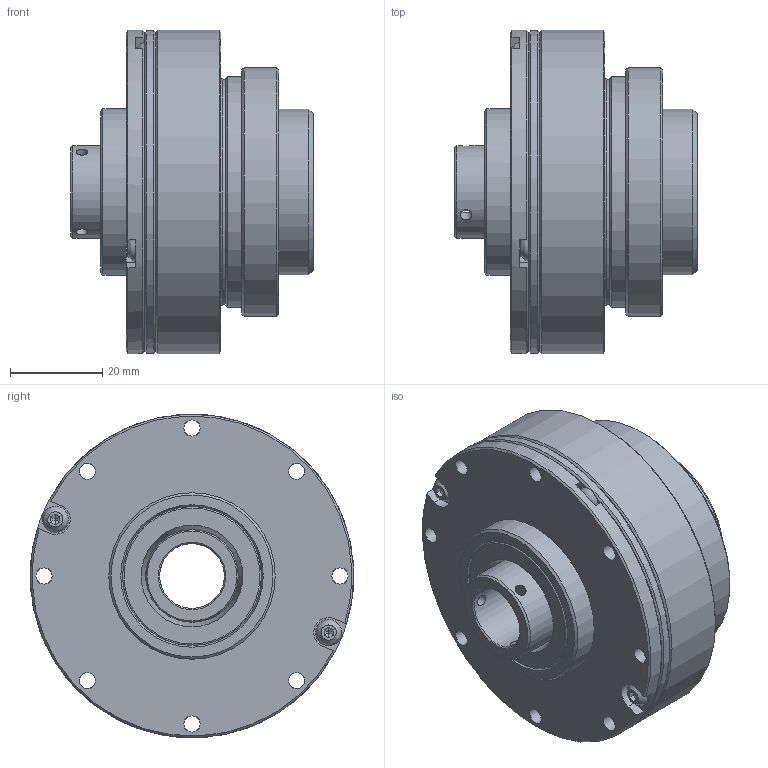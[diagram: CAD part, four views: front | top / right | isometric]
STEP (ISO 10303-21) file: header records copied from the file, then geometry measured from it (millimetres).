
FILE_DESCRIPTION (( 'STEP AP203' ), '1' );
FILE_NAME ('LHS-14-XXX-C-III.STEP', '2025-01-07T05:54:58', ( '' ), ( '' ), 'SwSTEP 2.0', 'SolidWorks 2023', '' );
FILE_SCHEMA (( 'CONFIG_CONTROL_DESIGN' ));
Length unit declared in the file: metre
Products named in the file (1): LHS-14-XXX-C-III
Bounding box: 52.5 x 70 x 70 mm (x, y, z)
Volume: 87128.7 mm3; surface area: 78148.9 mm2
Topology: 47 solids, 47 shells, 773 faces, 2134 edges, 1374 vertices
Faces by surface type: plane 263, cylinder 224, bspline 220, cone 66
Full cylindrical faces by diameter (mm): 2.5 x19, 3 x8, 3.5 x46, 3.7 x8, 5.5 x4, 6.5 x4, 14 x2, 14.5 x1, 19.8 x3, 20 x6, 22 x2, 24 x6, 24.1 x1, 25 x1, 25.07 x1, 26.5 x2, 26.707 x2, 27.6 x3, 28 x4, 29.5 x1, 30 x6, 30.3 x2, 31.4 x1, 32 x4, 32.36 x2, 33.92 x1, 34.088 x1, 34.588 x1, 34.7 x1, 35.499 x1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
Entity records: 30518 total; most frequent: CARTESIAN_POINT 13996, ORIENTED_EDGE 3268, DIRECTION 3048, EDGE_CURVE 1634, AXIS2_PLACEMENT_3D 1366, EDGE_LOOP 1290, VERTEX_POINT 1222, FACE_OUTER_BOUND 1013
